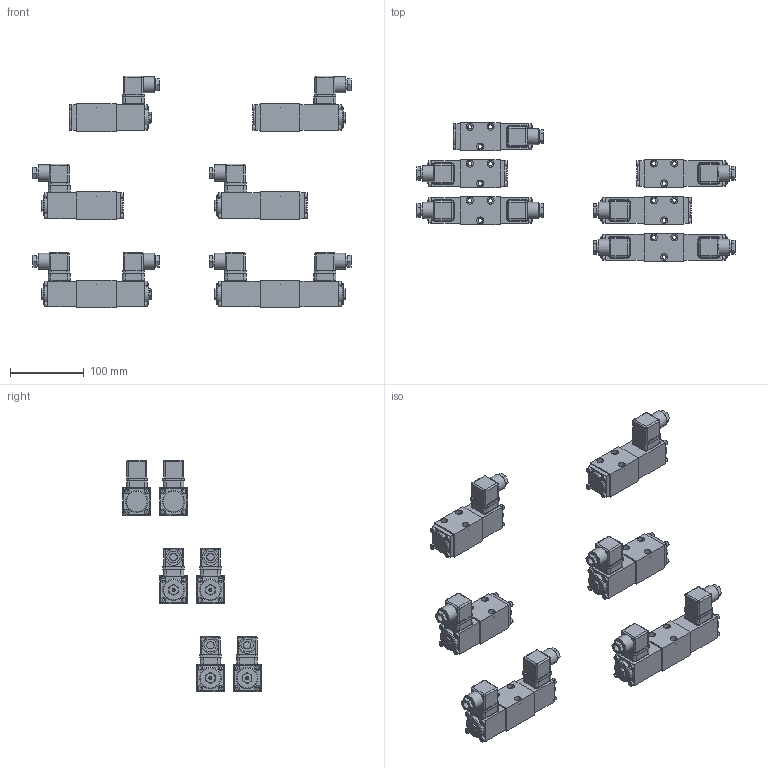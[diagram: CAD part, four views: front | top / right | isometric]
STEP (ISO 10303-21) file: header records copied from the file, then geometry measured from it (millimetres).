
FILE_DESCRIPTION(('Bauteilbeschreibung','HiCAD-Model','HiCAD-STEP-TRANSLATION','Bauteilbeschreibung'),'2;1');
FILE_NAME('K:/STEP_DXF/B_4_4.STP','2006-07-21T09:49:15+00:00',('Konstrukteur'),('Konstrukteur Firma GmbH'),'HiCAD3 V1210 STEP 1.6.2005','HiCAD3 V1210','confidential');
FILE_SCHEMA(('AUTOMOTIVE_DESIGN { 1 2 10303 214 0 1 1 1 }'));
Products named in the file (145): B_4_4; BM4; BM4D4; ADE987A4; A5E16FAE; IN6KTM4; IN6KTM40; IN6KTM41; IN6KTM42; IN6KTM43; D82DEE49; IN6KTM44; IN6KTM45; IN6KTM46; IN6KTM47; IN6KTM48; A71A7FCB; A86115F3; AD54FEE3; CA9517B3; CA9517B30; DICHTUNG; D82DEE490; A71A7FCB0; A86115F30; CA9517B31; CA9517B32; DICHTUNG0; AD54FEE30; BM4Z4_A; AF01398D; A5E16FAE0; IN6KTM49; IN6KTM410; IN6KTM411; IN6KTM412; IN6KTM413; A71A7FCB1; A86115F31; CA9517B33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
Assembly tree (144 placements, depth 7):
  B_4_4
    BM4
      BM4D4
        ADE987A4
          A5E16FAE
          IN6KTM4
            IN6KTM40
            IN6KTM41
            IN6KTM42
            IN6KTM43
          D82DEE49
          IN6KTM44
            IN6KTM45
            IN6KTM46
            IN6KTM47
            IN6KTM48
          A71A7FCB
            A86115F3
            AD54FEE3
            CA9517B3
            CA9517B30
              DICHTUNG
          D82DEE490
          A71A7FCB0
            A86115F30
            CA9517B31
            CA9517B32
              DICHTUNG0
            AD54FEE30
      BM4Z4_A
        AF01398D
          A5E16FAE0
          IN6KTM49
            IN6KTM410
            IN6KTM411
            IN6KTM412
            IN6KTM413
          A71A7FCB1
            A86115F31
            CA9517B33
            CA9517B34
              DICHTUNG1
            AD54FEE31
          D82DEE491
          AA75327F
          AA75327F0
            IN6KTM414
              IN6KTM415
              IN6KTM416
              IN6KTM417
              IN6KTM418
      BM4Z4_B
        B0AD4E88
          A5E16FAE1
          IN6KTM419
            IN6KTM420
            IN6KTM421
            IN6KTM422
            IN6KTM423
          A71A7FCB2
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Bounding box: 432.5 x 188 x 315.5 mm (x, y, z)
Volume: 1236849.8 mm3; surface area: 311140.8 mm2
Topology: 122 solids, 122 shells, 2082 faces, 4736 edges, 3158 vertices
Faces by surface type: plane 1304, cylinder 606, cone 124, sphere 32, torus 16
Full cylindrical faces by diameter (mm): 1.5 x24, 2.5 x8, 2.9 x8, 3 x24, 4 x52, 4.2 x8, 4.5 x52, 5.5 x18, 6.8 x8, 7 x48, 8 x24, 8.5 x30, 9.5 x18, 10 x8, 12 x8, 12.5 x8, 15 x8, 22 x8, 29.5 x8, 30 x4, 32 x8
Entity records: 99678 total; most frequent: CARTESIAN_POINT 14130, DIRECTION 9940, ORIENTED_EDGE 8112, COLOUR_RGB 6236, PRESENTATION_STYLE_ASSIGNMENT 6236, OVER_RIDING_STYLED_ITEM 6138, CURVE_STYLE 4056, DRAUGHTING_PRE_DEFINED_CURVE_FONT 4056
